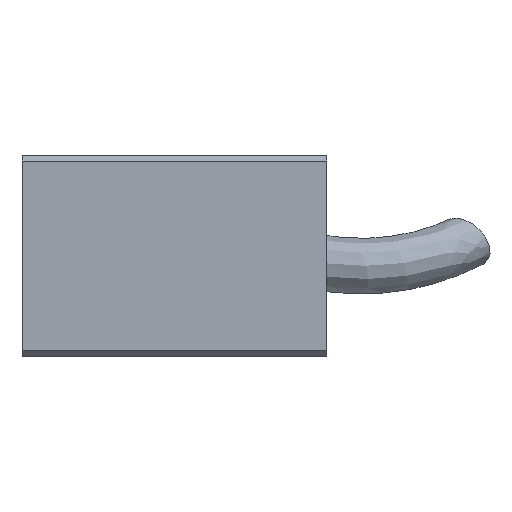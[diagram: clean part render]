
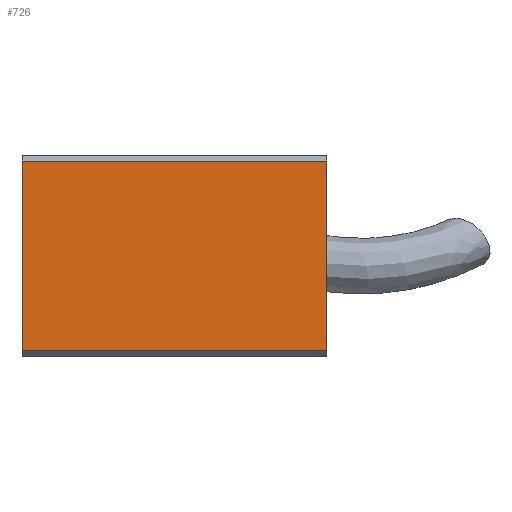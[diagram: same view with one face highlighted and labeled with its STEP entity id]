
A CAD part, front view. The second image highlights one B-rep face of the part: STEP entity #726.
In plain terms, the highlighted planar face has unit normal (0, -1, 0).
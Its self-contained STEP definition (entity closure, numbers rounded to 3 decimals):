
#88 = PLANE ( 'NONE',  #1929 ) ;
#137 = CARTESIAN_POINT ( 'NONE',  ( 53., -17.5, -16.5 ) ) ;
#231 = VERTEX_POINT ( 'NONE', #137 ) ;
#724 = VERTEX_POINT ( 'NONE', #5857 ) ;
#726 = ADVANCED_FACE ( 'NONE', ( #7667 ), #88, .F. ) ;
#901 = ORIENTED_EDGE ( 'NONE', *, *, #1496, .T. ) ;
#1496 = EDGE_CURVE ( 'NONE', #724, #2668, #7429, .T. ) ;
#1726 = EDGE_CURVE ( 'NONE', #724, #231, #7525, .T. ) ;
#1751 = VECTOR ( 'NONE', #7796, 1000. ) ;
#1929 = AXIS2_PLACEMENT_3D ( 'NONE', #5760, #7145, #3715 ) ;
#1980 = EDGE_LOOP ( 'NONE', ( #5393, #3894, #4567, #901 ) ) ;
#2668 = VERTEX_POINT ( 'NONE', #9014 ) ;
#3138 = DIRECTION ( 'NONE',  ( 0., 0., -1. ) ) ;
#3291 = VECTOR ( 'NONE', #6958, 1000. ) ;
#3532 = CARTESIAN_POINT ( 'NONE',  ( 53., -17.5, 16.5 ) ) ;
#3715 = DIRECTION ( 'NONE',  ( 0., 0., 1. ) ) ;
#3743 = DIRECTION ( 'NONE',  ( 1., 0., 0. ) ) ;
#3894 = ORIENTED_EDGE ( 'NONE', *, *, #5237, .T. ) ;
#4401 = EDGE_CURVE ( 'NONE', #2668, #8063, #8716, .T. ) ;
#4567 = ORIENTED_EDGE ( 'NONE', *, *, #1726, .F. ) ;
#5237 = EDGE_CURVE ( 'NONE', #8063, #231, #8467, .T. ) ;
#5287 = CARTESIAN_POINT ( 'NONE',  ( 53., -17.5, 17.5 ) ) ;
#5393 = ORIENTED_EDGE ( 'NONE', *, *, #4401, .T. ) ;
#5401 = VECTOR ( 'NONE', #3138, 1000. ) ;
#5722 = CARTESIAN_POINT ( 'NONE',  ( 0., -17.5, -16.5 ) ) ;
#5760 = CARTESIAN_POINT ( 'NONE',  ( 53., -17.5, 17.5 ) ) ;
#5857 = CARTESIAN_POINT ( 'NONE',  ( 53., -17.5, 16.5 ) ) ;
#6284 = CARTESIAN_POINT ( 'NONE',  ( 0., -17.5, 17.5 ) ) ;
#6364 = VECTOR ( 'NONE', #3743, 1000. ) ;
#6958 = DIRECTION ( 'NONE',  ( 0., 0., -1. ) ) ;
#7145 = DIRECTION ( 'NONE',  ( 0., 1., 0. ) ) ;
#7271 = CARTESIAN_POINT ( 'NONE',  ( 53., -17.5, -16.5 ) ) ;
#7429 = LINE ( 'NONE', #3532, #1751 ) ;
#7525 = LINE ( 'NONE', #5287, #5401 ) ;
#7667 = FACE_OUTER_BOUND ( 'NONE', #1980, .T. ) ;
#7796 = DIRECTION ( 'NONE',  ( -1., 0., 0. ) ) ;
#8063 = VERTEX_POINT ( 'NONE', #5722 ) ;
#8467 = LINE ( 'NONE', #7271, #6364 ) ;
#8716 = LINE ( 'NONE', #6284, #3291 ) ;
#9014 = CARTESIAN_POINT ( 'NONE',  ( 0., -17.5, 16.5 ) ) ;
